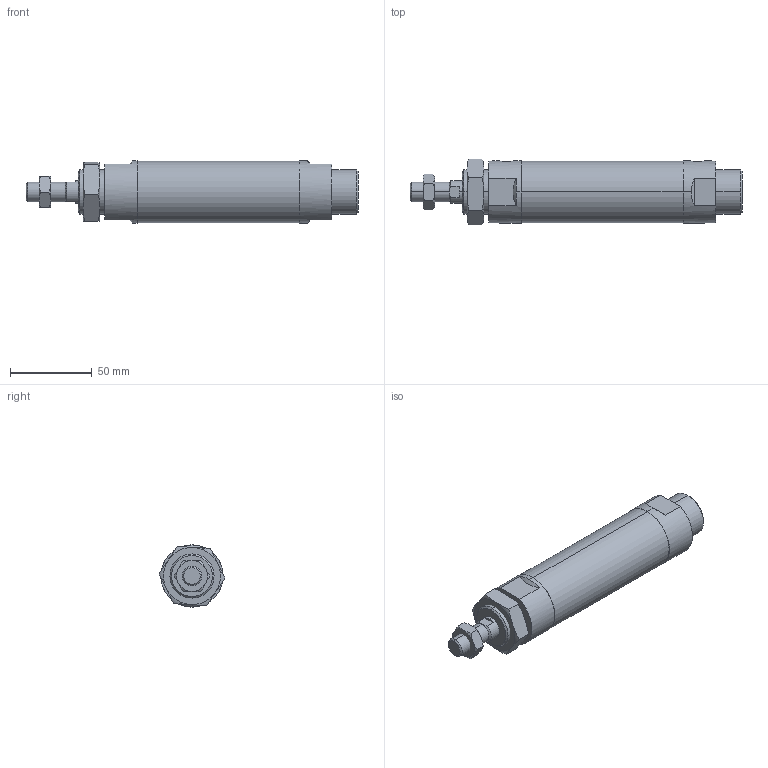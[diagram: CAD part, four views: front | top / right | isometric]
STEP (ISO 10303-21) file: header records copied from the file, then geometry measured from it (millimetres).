
FILE_DESCRIPTION (( 'STEP AP203' ), '1' );
FILE_NAME ('J#2-32-50-N.STEP', '2016-03-08T07:33:15', ( '' ), ( '' ), 'SwSTEP 2.0', 'SolidWorks 2014', '' );
FILE_SCHEMA (( 'CONFIG_CONTROL_DESIGN' ));
Length unit declared in the file: millimetre
Products named in the file (4): J#2-32-50-N; J#2-32-50
Assembly tree (3 placements, depth 2):
  J#2-32-50-N
    J#2-32-50
    (unnamed)
    (unnamed)
Bounding box: 203 x 40.33 x 38 mm (x, y, z)
Volume: 180419.1 mm3; surface area: 27928.4 mm2
Topology: 3 solids, 3 shells, 94 faces, 210 edges, 125 vertices
Faces by surface type: plane 33, torus 24, cylinder 22, cone 15
Entity records: 3451 total; most frequent: CARTESIAN_POINT 1038, DIRECTION 421, ORIENTED_EDGE 412, EDGE_CURVE 206, AXIS2_PLACEMENT_3D 178, VERTEX_POINT 125, EDGE_LOOP 105, ADVANCED_FACE 94
